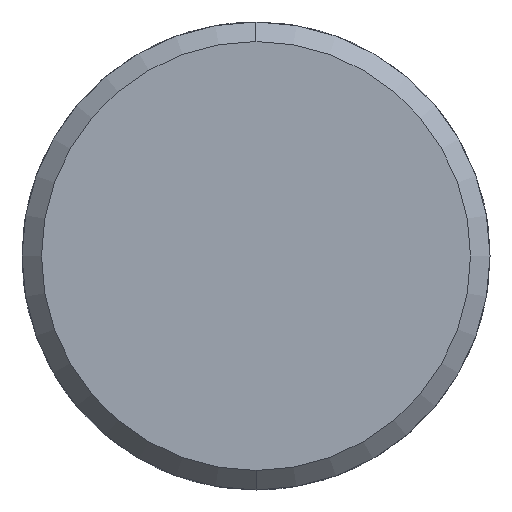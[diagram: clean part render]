
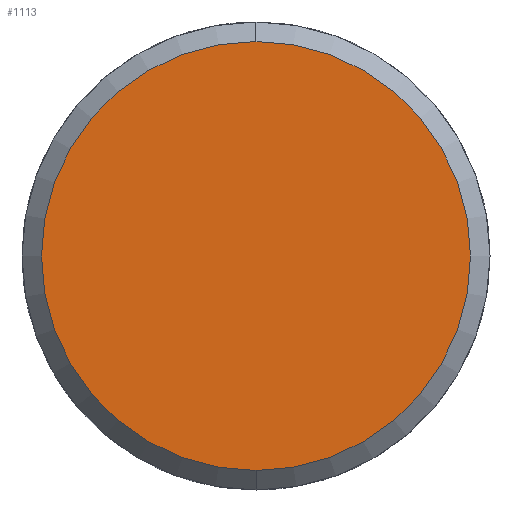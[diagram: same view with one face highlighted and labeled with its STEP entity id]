
A CAD part, left-side view. The second image highlights one B-rep face of the part: STEP entity #1113.
In plain terms, the highlighted planar face has unit normal (-1, 0, 0).
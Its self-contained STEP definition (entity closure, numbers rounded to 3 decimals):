
#1045=CARTESIAN_POINT('Vertex',(-5.,0.,-11.)) ;
#1048=CARTESIAN_POINT('Axis2P3D Location',(-5.,0.,0.)) ;
#1052=CARTESIAN_POINT('Vertex',(-5.,11.,0.)) ;
#1055=CARTESIAN_POINT('Axis2P3D Location',(-5.,0.,0.)) ;
#1059=CARTESIAN_POINT('Vertex',(-5.,0.,11.)) ;
#1081=CARTESIAN_POINT('Axis2P3D Location',(-5.,0.,0.)) ;
#1085=CARTESIAN_POINT('Vertex',(-5.,-11.,0.)) ;
#1088=CARTESIAN_POINT('Axis2P3D Location',(-5.,0.,0.)) ;
#1102=CARTESIAN_POINT('Axis2P3D Location',(-5.,0.,0.)) ;
#1049=DIRECTION('Axis2P3D Direction',(1.,0.,-0.)) ;
#1056=DIRECTION('Axis2P3D Direction',(1.,0.,-0.)) ;
#1082=DIRECTION('Axis2P3D Direction',(1.,0.,-0.)) ;
#1089=DIRECTION('Axis2P3D Direction',(1.,0.,-0.)) ;
#1103=DIRECTION('Axis2P3D Direction',(1.,0.,-0.)) ;
#1104=DIRECTION('Axis2P3D XDirection',(-0.,0.,-1.)) ;
#1050=AXIS2_PLACEMENT_3D('Circle Axis2P3D',#1048,#1049,$) ;
#1057=AXIS2_PLACEMENT_3D('Circle Axis2P3D',#1055,#1056,$) ;
#1083=AXIS2_PLACEMENT_3D('Circle Axis2P3D',#1081,#1082,$) ;
#1090=AXIS2_PLACEMENT_3D('Circle Axis2P3D',#1088,#1089,$) ;
#1105=AXIS2_PLACEMENT_3D('Plane Axis2P3D',#1102,#1103,#1104) ;
#1108=ORIENTED_EDGE('',*,*,#1054,.F.) ;
#1109=ORIENTED_EDGE('',*,*,#1092,.F.) ;
#1110=ORIENTED_EDGE('',*,*,#1087,.F.) ;
#1111=ORIENTED_EDGE('',*,*,#1061,.F.) ;
#1113=ADVANCED_FACE('351-14X22X50',(#1112),#1106,.F.) ;
#1051=CIRCLE('generated circle',#1050,11.) ;
#1058=CIRCLE('generated circle',#1057,11.) ;
#1084=CIRCLE('generated circle',#1083,11.) ;
#1091=CIRCLE('generated circle',#1090,11.) ;
#1054=EDGE_CURVE('',#1046,#1053,#1051,.T.) ;
#1061=EDGE_CURVE('',#1053,#1060,#1058,.T.) ;
#1087=EDGE_CURVE('',#1060,#1086,#1084,.T.) ;
#1092=EDGE_CURVE('',#1086,#1046,#1091,.T.) ;
#1107=EDGE_LOOP('',(#1108,#1109,#1110,#1111)) ;
#1112=FACE_OUTER_BOUND('',#1107,.T.) ;
#1106=PLANE('Plane',#1105) ;
#1046=VERTEX_POINT('',#1045) ;
#1053=VERTEX_POINT('',#1052) ;
#1060=VERTEX_POINT('',#1059) ;
#1086=VERTEX_POINT('',#1085) ;
